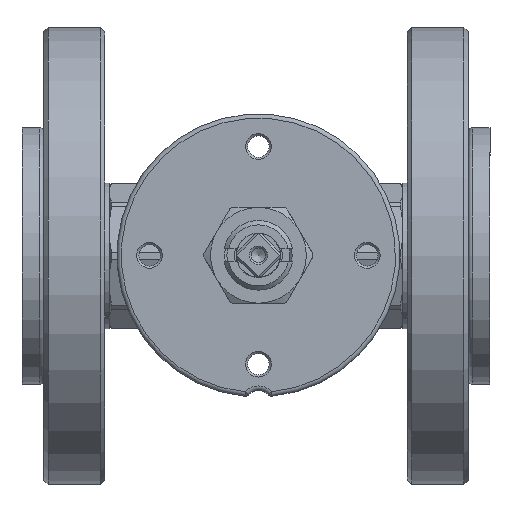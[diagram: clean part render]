
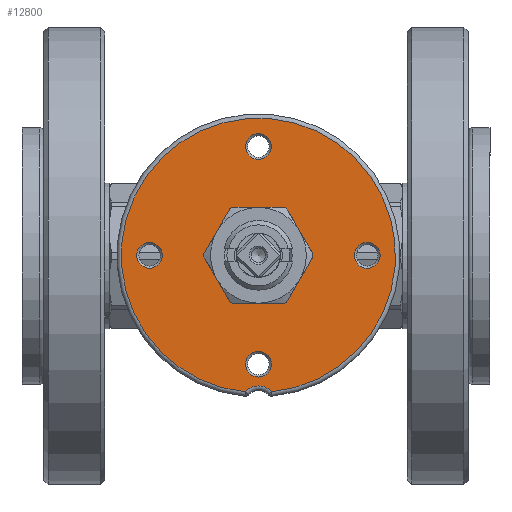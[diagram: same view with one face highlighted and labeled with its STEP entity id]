
A CAD part, top view. The second image highlights one B-rep face of the part: STEP entity #12800.
In plain terms, the highlighted planar face has unit normal (0, 0, 1) as drawn and (-1, 0, 0) by its records, which use the part's own axes.
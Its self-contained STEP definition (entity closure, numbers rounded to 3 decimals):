
#2719=FACE_BOUND('',#4272,.T.);
#2720=FACE_BOUND('',#4273,.T.);
#2721=FACE_BOUND('',#4274,.T.);
#2722=FACE_BOUND('',#4275,.T.);
#2723=FACE_BOUND('',#4276,.T.);
#3471=FACE_OUTER_BOUND('',#4271,.T.);
#4271=EDGE_LOOP('',(#8928,#8929));
#4272=EDGE_LOOP('',(#8930));
#4273=EDGE_LOOP('',(#8931));
#4274=EDGE_LOOP('',(#8932));
#4275=EDGE_LOOP('',(#8933));
#4276=EDGE_LOOP('',(#8934));
#5284=CIRCLE('',#13641,2.959);
#5285=CIRCLE('',#13643,4.);
#5286=CIRCLE('',#13644,31.5);
#5287=CIRCLE('',#13645,2.959);
#5288=CIRCLE('',#13646,2.959);
#5289=CIRCLE('',#13647,8.);
#5290=CIRCLE('',#13648,2.959);
#5864=VERTEX_POINT('',#18508);
#5865=VERTEX_POINT('',#18511);
#5866=VERTEX_POINT('',#18512);
#5867=VERTEX_POINT('',#18515);
#5868=VERTEX_POINT('',#18517);
#5869=VERTEX_POINT('',#18519);
#5870=VERTEX_POINT('',#18521);
#7092=EDGE_CURVE('',#5864,#5864,#5284,.T.);
#7093=EDGE_CURVE('',#5865,#5866,#5285,.T.);
#7094=EDGE_CURVE('',#5866,#5865,#5286,.T.);
#7095=EDGE_CURVE('',#5867,#5867,#5287,.T.);
#7096=EDGE_CURVE('',#5868,#5868,#5288,.T.);
#7097=EDGE_CURVE('',#5869,#5869,#5289,.T.);
#7098=EDGE_CURVE('',#5870,#5870,#5290,.T.);
#8928=ORIENTED_EDGE('',*,*,#7093,.F.);
#8929=ORIENTED_EDGE('',*,*,#7094,.F.);
#8930=ORIENTED_EDGE('',*,*,#7095,.F.);
#8931=ORIENTED_EDGE('',*,*,#7096,.F.);
#8932=ORIENTED_EDGE('',*,*,#7097,.T.);
#8933=ORIENTED_EDGE('',*,*,#7098,.F.);
#8934=ORIENTED_EDGE('',*,*,#7092,.F.);
#12448=PLANE('',#13642);
#12800=ADVANCED_FACE('',(#3471,#2719,#2720,#2721,#2722,#2723),#12448,.T.);
#13641=AXIS2_PLACEMENT_3D('',#18509,#15044,#15045);
#13642=AXIS2_PLACEMENT_3D('',#18510,#15046,#15047);
#13643=AXIS2_PLACEMENT_3D('',#18513,#15048,#15049);
#13644=AXIS2_PLACEMENT_3D('',#18514,#15050,#15051);
#13645=AXIS2_PLACEMENT_3D('',#18516,#15052,#15053);
#13646=AXIS2_PLACEMENT_3D('',#18518,#15054,#15055);
#13647=AXIS2_PLACEMENT_3D('',#18520,#15056,#15057);
#13648=AXIS2_PLACEMENT_3D('',#18522,#15058,#15059);
#15044=DIRECTION('center_axis',(-1.,0.,0.));
#15045=DIRECTION('ref_axis',(0.,-1.,0.));
#15046=DIRECTION('center_axis',(-1.,0.,0.));
#15047=DIRECTION('ref_axis',(0.,0.,1.));
#15048=DIRECTION('center_axis',(-1.,0.,0.));
#15049=DIRECTION('ref_axis',(0.,0.,
-1.));
#15050=DIRECTION('center_axis',(1.,0.,0.));
#15051=DIRECTION('ref_axis',(0.,-1.,0.));
#15052=DIRECTION('center_axis',(-1.,0.,0.));
#15053=DIRECTION('ref_axis',(0.,-1.,0.));
#15054=DIRECTION('center_axis',(-1.,0.,0.));
#15055=DIRECTION('ref_axis',(0.,-1.,0.));
#15056=DIRECTION('center_axis',(1.,0.,0.));
#15057=DIRECTION('ref_axis',(0.,1.,0.));
#15058=DIRECTION('center_axis',(-1.,0.,0.));
#15059=DIRECTION('ref_axis',(0.,-1.,0.));
#18508=CARTESIAN_POINT('',(-12.5,2.959,-25.));
#18509=CARTESIAN_POINT('Origin',(-12.5,0.,-25.));
#18510=CARTESIAN_POINT('Origin',(-12.5,16.25,0.));
#18511=CARTESIAN_POINT('',(-12.5,3.002,31.357));
#18512=CARTESIAN_POINT('',(-12.5,-3.002,31.357));
#18513=CARTESIAN_POINT('Origin',(-12.5,0.,34.));
#18514=CARTESIAN_POINT('Origin',(-12.5,0.,0.));
#18515=CARTESIAN_POINT('',(-12.5,27.959,0.));
#18516=CARTESIAN_POINT('Origin',(-12.5,25.,0.));
#18517=CARTESIAN_POINT('',(-12.5,2.959,25.));
#18518=CARTESIAN_POINT('Origin',(-12.5,0.,25.));
#18519=CARTESIAN_POINT('',(-12.5,-8.,0.));
#18520=CARTESIAN_POINT('Origin',(-12.5,0.,0.));
#18521=CARTESIAN_POINT('',(-12.5,-22.042,0.));
#18522=CARTESIAN_POINT('Origin',(-12.5,-25.,0.));
